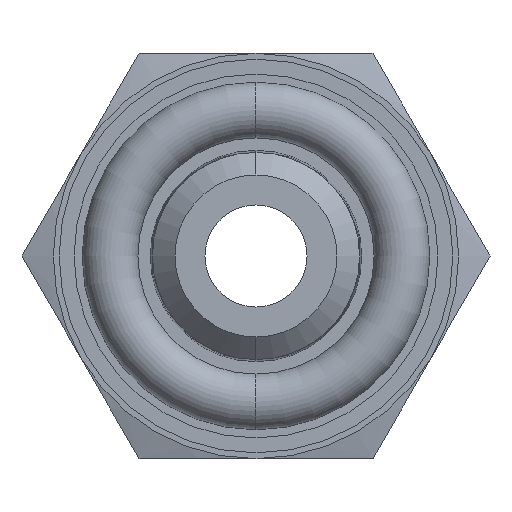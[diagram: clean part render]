
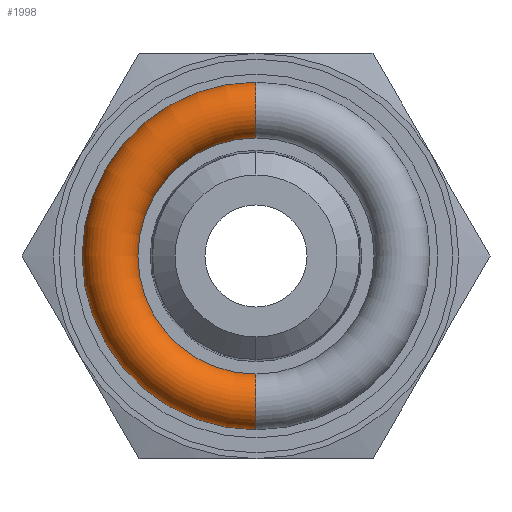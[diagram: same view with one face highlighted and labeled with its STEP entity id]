
A CAD part, left-side view. The second image highlights one B-rep face of the part: STEP entity #1998.
In plain terms, the highlighted toroidal (fillet/blend) face has major radius 6.86 mm and minor radius 1.31 mm.
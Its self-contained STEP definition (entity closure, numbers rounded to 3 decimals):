
#1012 = DIRECTION ( 'NONE',  ( 0., 0., 1. ) ) ;
#1013 = DIRECTION ( 'NONE',  ( 0., 1., 0. ) ) ;
#1014 = CARTESIAN_POINT ( 'NONE',  ( -3.61, 0., 6.86 ) ) ;
#1015 = AXIS2_PLACEMENT_3D ( 'NONE', #1014, #1013, #1012 ) ;
#1016 = CIRCLE ( 'NONE', #1015, 1.31 ) ;
#1017 = DIRECTION ( 'NONE',  ( 0., 0., -1. ) ) ;
#1018 = DIRECTION ( 'NONE',  ( 0., -1., 0. ) ) ;
#1019 = CARTESIAN_POINT ( 'NONE',  ( -3.61, 0., -6.86 ) ) ;
#1020 = AXIS2_PLACEMENT_3D ( 'NONE', #1019, #1018, #1017 ) ;
#1021 = CIRCLE ( 'NONE', #1020, 1.31 ) ;
#1134 = CARTESIAN_POINT ( 'NONE',  ( -3.61, 0., 8.17 ) ) ;
#1439 = DIRECTION ( 'NONE',  ( 0., 0., -1. ) ) ;
#1440 = DIRECTION ( 'NONE',  ( 1., 0., 0. ) ) ;
#1441 = AXIS2_PLACEMENT_3D ( 'NONE', #1443, #1440, #1439 ) ;
#1442 = TOROIDAL_SURFACE ( 'NONE', #1441, 6.86, 1.31 ) ;
#1443 = CARTESIAN_POINT ( 'NONE',  ( -3.61, 0., 0. ) ) ;
#1444 = FACE_OUTER_BOUND ( 'NONE', #1999, .T. ) ;
#1540 = DIRECTION ( 'NONE',  ( 0., 0., -1. ) ) ;
#1541 = DIRECTION ( 'NONE',  ( 1., 0., 0. ) ) ;
#1542 = CARTESIAN_POINT ( 'NONE',  ( -3.61, 0., 0. ) ) ;
#1543 = AXIS2_PLACEMENT_3D ( 'NONE', #1542, #1541, #1540 ) ;
#1544 = CIRCLE ( 'NONE', #1543, 5.55 ) ;
#1656 = DIRECTION ( 'NONE',  ( 0., 0., -1. ) ) ;
#1657 = DIRECTION ( 'NONE',  ( 1., 0., 0. ) ) ;
#1658 = CARTESIAN_POINT ( 'NONE',  ( -3.61, 0., 0. ) ) ;
#1659 = AXIS2_PLACEMENT_3D ( 'NONE', #1658, #1657, #1656 ) ;
#1664 = CIRCLE ( 'NONE', #1659, 8.17 ) ;
#1672 = CARTESIAN_POINT ( 'NONE',  ( -3.61, 0., -5.55 ) ) ;
#1678 = CARTESIAN_POINT ( 'NONE',  ( -3.61, 0., -8.17 ) ) ;
#1684 = CARTESIAN_POINT ( 'NONE',  ( -3.61, 0., 5.55 ) ) ;
#1856 = VERTEX_POINT ( 'NONE', #1134 ) ;
#1908 = ORIENTED_EDGE ( 'NONE', *, *, #1909, .F. ) ;
#1909 = EDGE_CURVE ( 'NONE', #2097, #2094, #1021, .T. ) ;
#1910 = ORIENTED_EDGE ( 'NONE', *, *, #2107, .T. ) ;
#1911 = ORIENTED_EDGE ( 'NONE', *, *, #1912, .T. ) ;
#1912 = EDGE_CURVE ( 'NONE', #2091, #1856, #1016, .T. ) ;
#1998 = ADVANCED_FACE ( 'NONE', ( #1444 ), #1442, .T. ) ;
#1999 = EDGE_LOOP ( 'NONE', ( #2000, #1908, #1910, #1911 ) ) ;
#2000 = ORIENTED_EDGE ( 'NONE', *, *, #2104, .F. ) ;
#2091 = VERTEX_POINT ( 'NONE', #1684 ) ;
#2094 = VERTEX_POINT ( 'NONE', #1678 ) ;
#2097 = VERTEX_POINT ( 'NONE', #1672 ) ;
#2104 = EDGE_CURVE ( 'NONE', #2094, #1856, #1664, .T. ) ;
#2107 = EDGE_CURVE ( 'NONE', #2097, #2091, #1544, .T. ) ;
